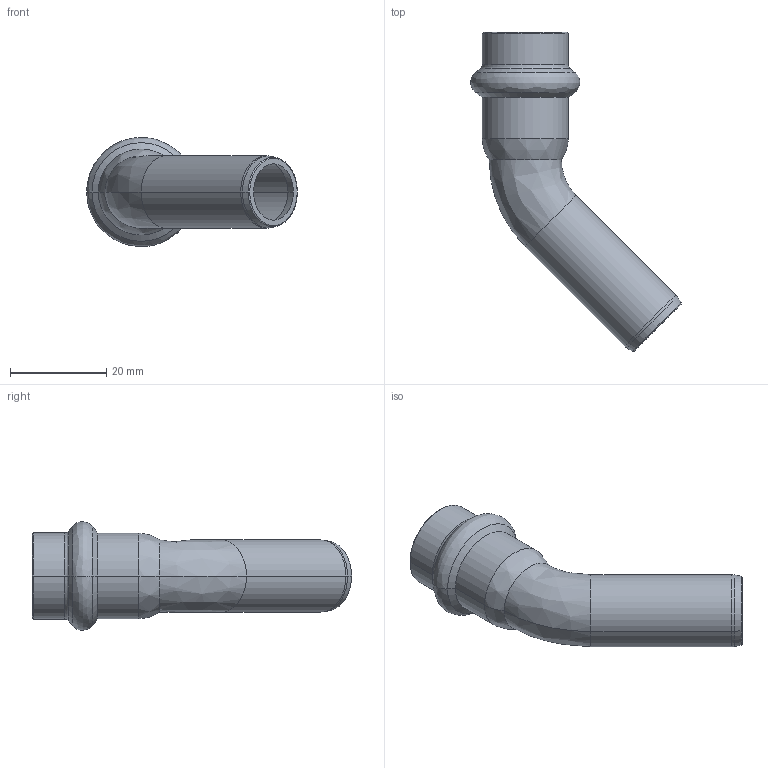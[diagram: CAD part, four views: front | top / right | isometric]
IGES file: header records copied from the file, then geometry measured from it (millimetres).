
Start section: Elysium IGES Interface
Global section: file name: C:\Users\Wallenburg\Desktop\3d modellen sudo\S-Pr VP\SP6040V\6040VW15.igs; native system: CoCreate Modeling 17.00A  17-Jun-2010; preprocessor: CoCreate IGES_3D V2.2; author: Unknown; organization: Unknown; date: 20130116.090056; units: millimetre
Bounding box: 43.77 x 66.32 x 22.67 mm (x, y, z)
Volume: 4596.4 mm3; surface area: 7809.6 mm2
Topology: 1 solids, 3 shells, 56 faces, 108 edges, 58 vertices
Faces by surface type: bspline 56
